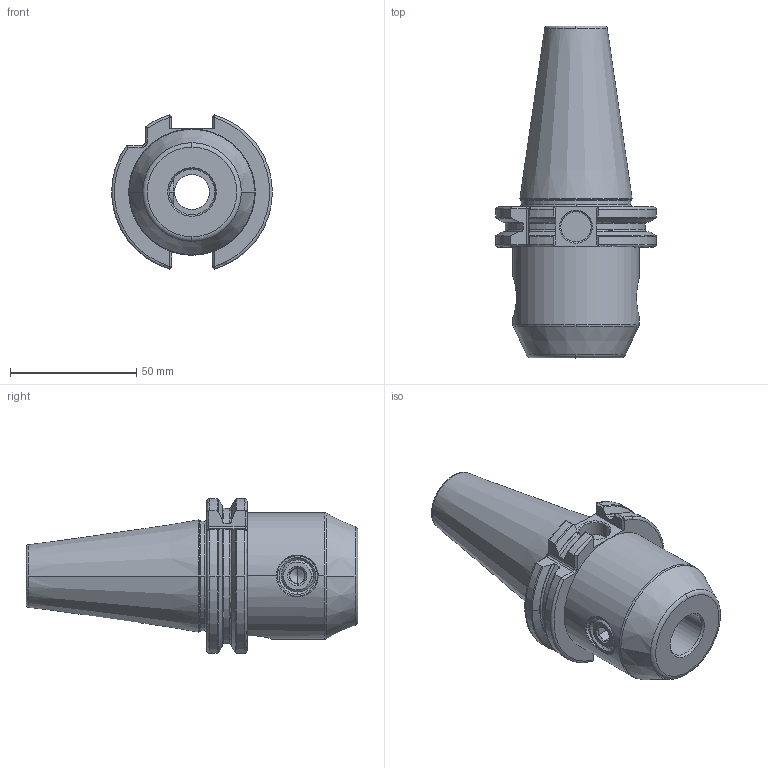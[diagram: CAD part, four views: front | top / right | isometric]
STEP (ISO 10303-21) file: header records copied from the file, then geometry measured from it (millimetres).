
FILE_DESCRIPTION (( 'STEP AP214' ), '1' );
FILE_NAME ('04-0522.STEP', '2022-02-02T18:27:37', ( '' ), ( '' ), 'SwSTEP 2.0', 'SolidWorks 2021', '' );
FILE_SCHEMA (( 'AUTOMOTIVE_DESIGN' ));
Length unit declared in the file: inch
Products named in the file (1): 04-0522
Bounding box: 63.55 x 131.4 x 61.05 mm (x, y, z)
Volume: 165136.3 mm3; surface area: 29617.9 mm2
Topology: 1 solids, 1 shells, 194 faces, 512 edges, 323 vertices
Faces by surface type: plane 58, cone 42, cylinder 42, torus 32, bspline 18, sphere 2
Entity records: 10047 total; most frequent: CARTESIAN_POINT 2871, ORIENTED_EDGE 1016, DIRECTION 931, EDGE_CURVE 508, AXIS2_PLACEMENT_3D 367, VERTEX_POINT 323, EDGE_LOOP 203, UNCERTAINTY_MEASURE_WITH_UNIT 197
